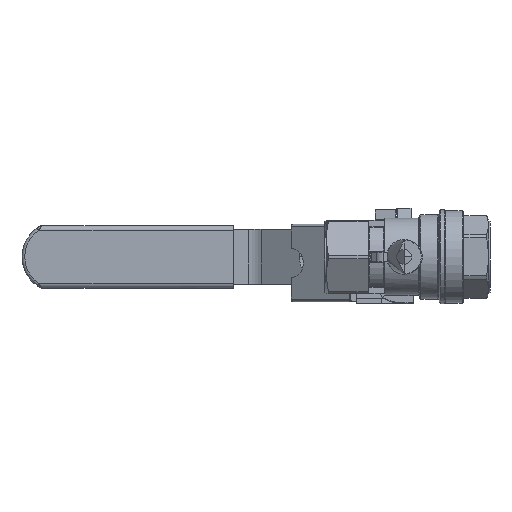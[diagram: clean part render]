
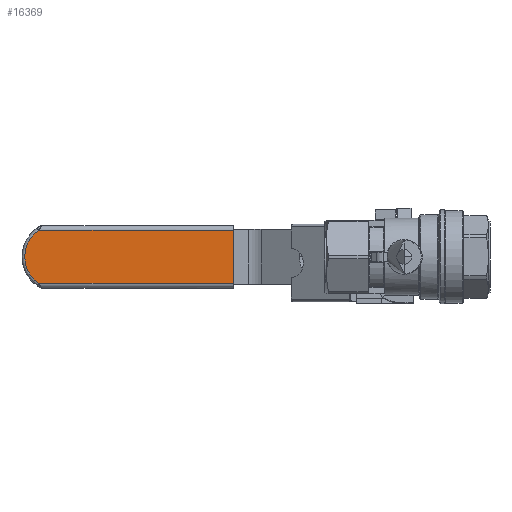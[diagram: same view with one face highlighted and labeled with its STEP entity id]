
A CAD part, front view. The second image highlights one B-rep face of the part: STEP entity #16369.
In plain terms, the highlighted planar face has unit normal (0, -1, 0).
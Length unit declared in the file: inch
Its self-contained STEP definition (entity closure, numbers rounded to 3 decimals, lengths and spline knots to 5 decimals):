
#629 = FACE_OUTER_BOUND ( 'NONE', #15185, .T. ) ;
#965 = DIRECTION ( 'NONE',  ( 0., -1., 0. ) ) ;
#1568 = PLANE ( 'NONE',  #6670 ) ;
#1904 = DIRECTION ( 'NONE',  ( 0., 0., -1. ) ) ;
#2122 = VERTEX_POINT ( 'NONE', #11747 ) ;
#3073 = CARTESIAN_POINT ( 'NONE',  ( -1.82, 1.69, -0.283 ) ) ;
#3142 = CIRCLE ( 'NONE', #5315, 0.34378 ) ;
#3373 = ORIENTED_EDGE ( 'NONE', *, *, #16485, .T. ) ;
#3580 = CARTESIAN_POINT ( 'NONE',  ( -3.70622, 1.69, 0. ) ) ;
#3863 = LINE ( 'NONE', #7671, #4875 ) ;
#3884 = DIRECTION ( 'NONE',  ( -1., 0., 0. ) ) ;
#4029 = DIRECTION ( 'NONE',  ( 0., 0., 1. ) ) ;
#4436 = CARTESIAN_POINT ( 'NONE',  ( -3.9014, 1.69, -0.283 ) ) ;
#4875 = VECTOR ( 'NONE', #4029, 39.37008 ) ;
#5315 = AXIS2_PLACEMENT_3D ( 'NONE', #3580, #965, #8497 ) ;
#5886 = EDGE_CURVE ( 'NONE', #2122, #15620, #7743, .T. ) ;
#6315 = ORIENTED_EDGE ( 'NONE', *, *, #5886, .T. ) ;
#6670 = AXIS2_PLACEMENT_3D ( 'NONE', #3073, #14766, #1904 ) ;
#6816 = VERTEX_POINT ( 'NONE', #4436 ) ;
#7100 = ORIENTED_EDGE ( 'NONE', *, *, #13324, .F. ) ;
#7671 = CARTESIAN_POINT ( 'NONE',  ( -1.82, 1.69, -0.283 ) ) ;
#7743 = LINE ( 'NONE', #10634, #13236 ) ;
#7935 = VERTEX_POINT ( 'NONE', #8307 ) ;
#8307 = CARTESIAN_POINT ( 'NONE',  ( -1.82, 1.69, -0.283 ) ) ;
#8466 = EDGE_CURVE ( 'NONE', #7935, #2122, #3863, .T. ) ;
#8497 = DIRECTION ( 'NONE',  ( 0., 0., -1. ) ) ;
#8944 = ORIENTED_EDGE ( 'NONE', *, *, #8466, .T. ) ;
#10430 = VECTOR ( 'NONE', #3884, 39.37008 ) ;
#10634 = CARTESIAN_POINT ( 'NONE',  ( -1.82, 1.69, 0.283 ) ) ;
#10938 = CARTESIAN_POINT ( 'NONE',  ( -3.9014, 1.69, 0.283 ) ) ;
#11747 = CARTESIAN_POINT ( 'NONE',  ( -1.82, 1.69, 0.283 ) ) ;
#13236 = VECTOR ( 'NONE', #13249, 39.37008 ) ;
#13249 = DIRECTION ( 'NONE',  ( -1., 0., 0. ) ) ;
#13324 = EDGE_CURVE ( 'NONE', #7935, #6816, #16564, .T. ) ;
#14766 = DIRECTION ( 'NONE',  ( 0., -1., 0. ) ) ;
#15185 = EDGE_LOOP ( 'NONE', ( #6315, #3373, #7100, #8944 ) ) ;
#15620 = VERTEX_POINT ( 'NONE', #10938 ) ;
#15645 = CARTESIAN_POINT ( 'NONE',  ( -1.82, 1.69, -0.283 ) ) ;
#16369 = ADVANCED_FACE ( 'NONE', ( #629 ), #1568, .T. ) ;
#16485 = EDGE_CURVE ( 'NONE', #15620, #6816, #3142, .T. ) ;
#16564 = LINE ( 'NONE', #15645, #10430 ) ;
